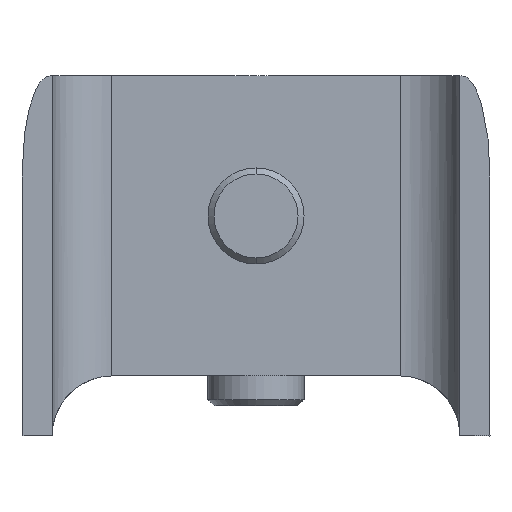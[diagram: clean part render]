
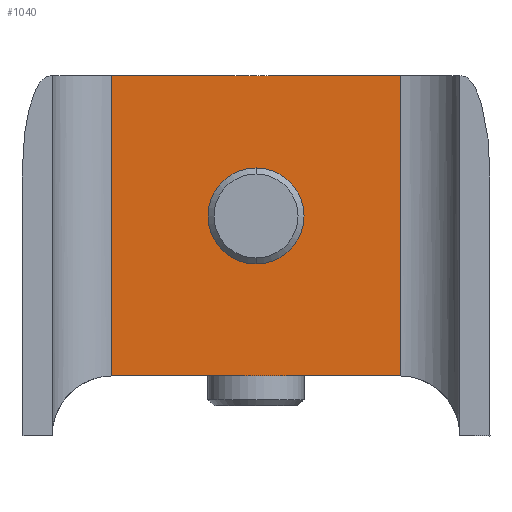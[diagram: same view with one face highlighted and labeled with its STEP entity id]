
A CAD part, front view. The second image highlights one B-rep face of the part: STEP entity #1040.
In plain terms, the highlighted planar face has unit normal (0, -1, 0).
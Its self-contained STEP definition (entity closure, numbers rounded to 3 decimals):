
#39 = CARTESIAN_POINT ( 'NONE',  ( -7.2, 3., 0. ) ) ;
#61 = CARTESIAN_POINT ( 'NONE',  ( 0., 3., -4.6 ) ) ;
#65 = ORIENTED_EDGE ( 'NONE', *, *, #438, .F. ) ;
#74 = DIRECTION ( 'NONE',  ( 0., 0., 1. ) ) ;
#82 = VERTEX_POINT ( 'NONE', #595 ) ;
#109 = EDGE_CURVE ( 'NONE', #1448, #331, #1259, .T. ) ;
#149 = DIRECTION ( 'NONE',  ( 1., 0., 0. ) ) ;
#183 = AXIS2_PLACEMENT_3D ( 'NONE', #649, #774, #418 ) ;
#214 = EDGE_CURVE ( 'NONE', #1060, #728, #681, .T. ) ;
#253 = VECTOR ( 'NONE', #559, 1000. ) ;
#272 = VECTOR ( 'NONE', #149, 1000. ) ;
#301 = CIRCLE ( 'NONE', #1139, 2.4 ) ;
#331 = VERTEX_POINT ( 'NONE', #61 ) ;
#350 = AXIS2_PLACEMENT_3D ( 'NONE', #1194, #620, #74 ) ;
#415 = CARTESIAN_POINT ( 'NONE',  ( 7.2, 3., 0. ) ) ;
#418 = DIRECTION ( 'NONE',  ( 0., 0., 1. ) ) ;
#438 = EDGE_CURVE ( 'NONE', #331, #1448, #301, .T. ) ;
#460 = CARTESIAN_POINT ( 'NONE',  ( -7.2, 3., -15. ) ) ;
#541 = CARTESIAN_POINT ( 'NONE',  ( 0., 3., -7. ) ) ;
#559 = DIRECTION ( 'NONE',  ( 0., 0., -1. ) ) ;
#569 = LINE ( 'NONE', #460, #1182 ) ;
#589 = EDGE_LOOP ( 'NONE', ( #65, #884 ) ) ;
#595 = CARTESIAN_POINT ( 'NONE',  ( 7.2, 3., -15. ) ) ;
#605 = ORIENTED_EDGE ( 'NONE', *, *, #974, .F. ) ;
#614 = LINE ( 'NONE', #415, #918 ) ;
#620 = DIRECTION ( 'NONE',  ( 0., 1., 0. ) ) ;
#649 = CARTESIAN_POINT ( 'NONE',  ( 0., 3., -7. ) ) ;
#681 = LINE ( 'NONE', #712, #253 ) ;
#712 = CARTESIAN_POINT ( 'NONE',  ( -7.2, 3., 0. ) ) ;
#728 = VERTEX_POINT ( 'NONE', #1019 ) ;
#730 = CARTESIAN_POINT ( 'NONE',  ( 7.2, 3., 0. ) ) ;
#736 = FACE_BOUND ( 'NONE', #589, .T. ) ;
#774 = DIRECTION ( 'NONE',  ( 0., -1., 0. ) ) ;
#810 = DIRECTION ( 'NONE',  ( -1., 0., 0. ) ) ;
#829 = PLANE ( 'NONE',  #350 ) ;
#861 = FACE_OUTER_BOUND ( 'NONE', #1053, .T. ) ;
#884 = ORIENTED_EDGE ( 'NONE', *, *, #109, .F. ) ;
#886 = EDGE_CURVE ( 'NONE', #1060, #1455, #938, .T. ) ;
#918 = VECTOR ( 'NONE', #947, 1000. ) ;
#938 = LINE ( 'NONE', #1396, #272 ) ;
#947 = DIRECTION ( 'NONE',  ( 0., 0., -1. ) ) ;
#974 = EDGE_CURVE ( 'NONE', #82, #728, #569, .T. ) ;
#996 = ORIENTED_EDGE ( 'NONE', *, *, #886, .F. ) ;
#1019 = CARTESIAN_POINT ( 'NONE',  ( -7.2, 3., -15. ) ) ;
#1040 = ADVANCED_FACE ( 'NONE', ( #736, #861 ), #829, .F. ) ;
#1053 = EDGE_LOOP ( 'NONE', ( #1281, #996, #1319, #605 ) ) ;
#1060 = VERTEX_POINT ( 'NONE', #39 ) ;
#1139 = AXIS2_PLACEMENT_3D ( 'NONE', #541, #1458, #1250 ) ;
#1182 = VECTOR ( 'NONE', #810, 1000. ) ;
#1194 = CARTESIAN_POINT ( 'NONE',  ( -7.2, 3., 0. ) ) ;
#1250 = DIRECTION ( 'NONE',  ( 0., 0., 1. ) ) ;
#1259 = CIRCLE ( 'NONE', #183, 2.4 ) ;
#1281 = ORIENTED_EDGE ( 'NONE', *, *, #1447, .F. ) ;
#1319 = ORIENTED_EDGE ( 'NONE', *, *, #214, .T. ) ;
#1396 = CARTESIAN_POINT ( 'NONE',  ( -7.2, 3., 0. ) ) ;
#1413 = CARTESIAN_POINT ( 'NONE',  ( 0., 3., -9.4 ) ) ;
#1447 = EDGE_CURVE ( 'NONE', #1455, #82, #614, .T. ) ;
#1448 = VERTEX_POINT ( 'NONE', #1413 ) ;
#1455 = VERTEX_POINT ( 'NONE', #730 ) ;
#1458 = DIRECTION ( 'NONE',  ( 0., -1., 0. ) ) ;
